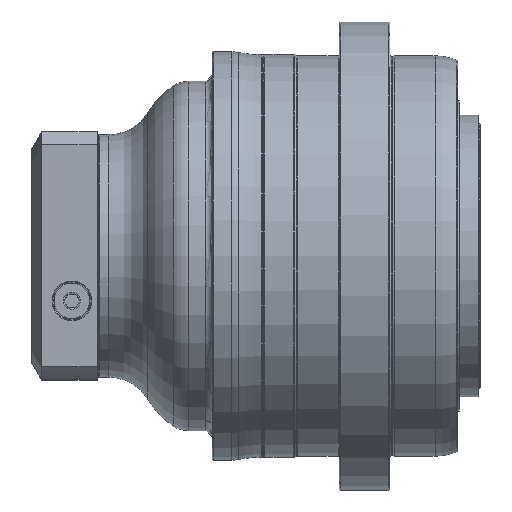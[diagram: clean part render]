
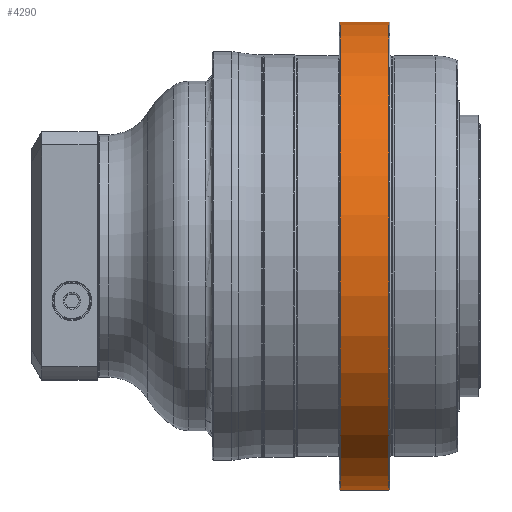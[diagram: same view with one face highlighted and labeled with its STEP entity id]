
A CAD part, top view. The second image highlights one B-rep face of the part: STEP entity #4290.
In plain terms, the highlighted cylindrical face has radius 207.5 mm (diameter 415 mm), a partial arc.
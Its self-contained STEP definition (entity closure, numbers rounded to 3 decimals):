
#1110=CARTESIAN_POINT('',(-44.,0.,0.));
#1111=DIRECTION('',(-1.,0.,0.));
#1112=DIRECTION('',(0.,-1.,0.));
#1113=AXIS2_PLACEMENT_3D('',#1110,#1111,#1112);
#1135=DIRECTION('',(-1.,0.,0.));
#1136=VECTOR('',#1135,43.);
#1137=CARTESIAN_POINT('',(-1.,-207.5,0.));
#1138=LINE('',#1137,#1136);
#1139=DIRECTION('',(-1.,0.,0.));
#1140=VECTOR('',#1139,43.);
#1141=CARTESIAN_POINT('',(-1.,207.5,0.));
#1142=LINE('',#1141,#1140);
#1143=CARTESIAN_POINT('',(-1.,0.,0.));
#1144=DIRECTION('',(-1.,0.,0.));
#1145=DIRECTION('',(0.,-1.,0.));
#1146=AXIS2_PLACEMENT_3D('',#1143,#1144,#1145);
#2109=CARTESIAN_POINT('',(-1.,-207.5,0.));
#2110=CARTESIAN_POINT('',(-1.,207.5,0.));
#2111=VERTEX_POINT('',#2109);
#2112=VERTEX_POINT('',#2110);
#2121=CARTESIAN_POINT('',(-44.,-207.5,0.));
#2122=CARTESIAN_POINT('',(-44.,207.5,0.));
#2123=VERTEX_POINT('',#2121);
#2124=VERTEX_POINT('',#2122);
#4278=CARTESIAN_POINT('',(-120.6,0.,0.));
#4279=DIRECTION('',(1.,0.,0.));
#4280=DIRECTION('',(0.,-1.,0.));
#4281=AXIS2_PLACEMENT_3D('',#4278,#4279,#4280);
#4282=CYLINDRICAL_SURFACE('',#4281,207.5);
#4283=ORIENTED_EDGE('',*,*,#4243,.T.);
#4284=ORIENTED_EDGE('',*,*,#4273,.F.);
#4286=ORIENTED_EDGE('',*,*,#4285,.F.);
#4287=ORIENTED_EDGE('',*,*,#4269,.T.);
#4288=EDGE_LOOP('',(#4283,#4284,#4286,#4287));
#4289=FACE_OUTER_BOUND('',#4288,.F.);
#4290=ADVANCED_FACE('',(#4289),#4282,.T.);
#1114=CIRCLE('',#1113,207.5);
#1147=CIRCLE('',#1146,207.5);
#4243=EDGE_CURVE('',#2123,#2124,#1114,.T.);
#4269=EDGE_CURVE('',#2111,#2123,#1138,.T.);
#4273=EDGE_CURVE('',#2112,#2124,#1142,.T.);
#4285=EDGE_CURVE('',#2111,#2112,#1147,.T.);
